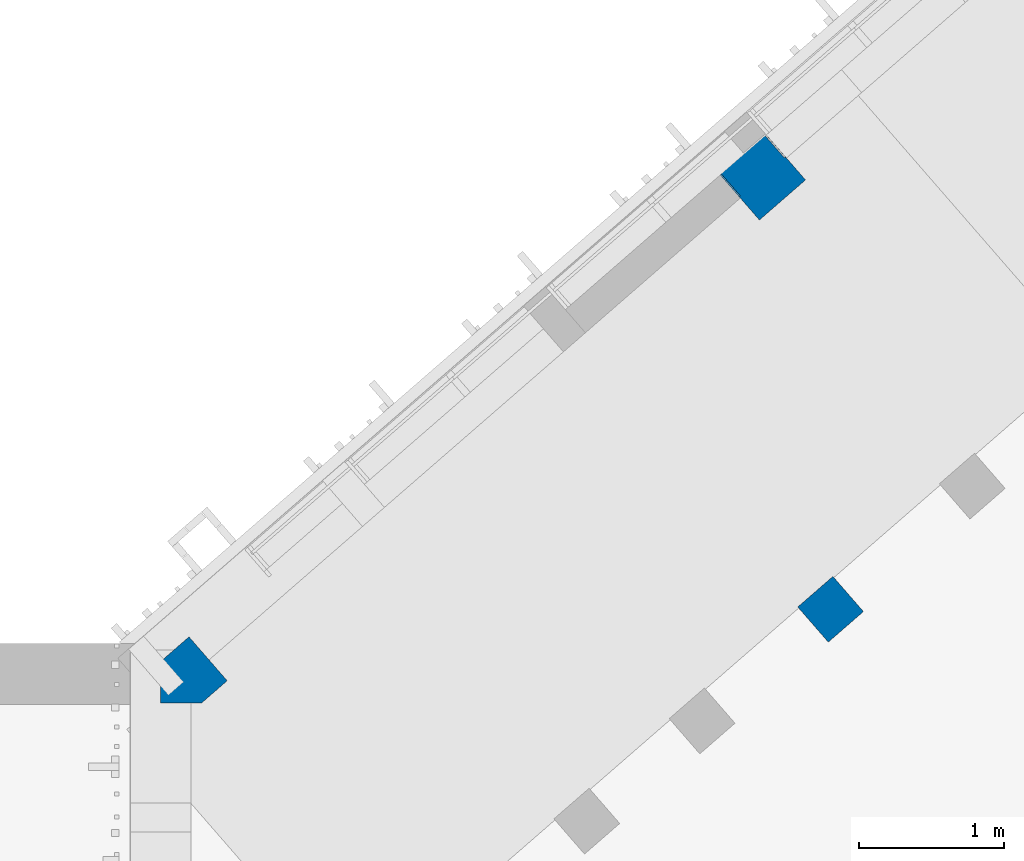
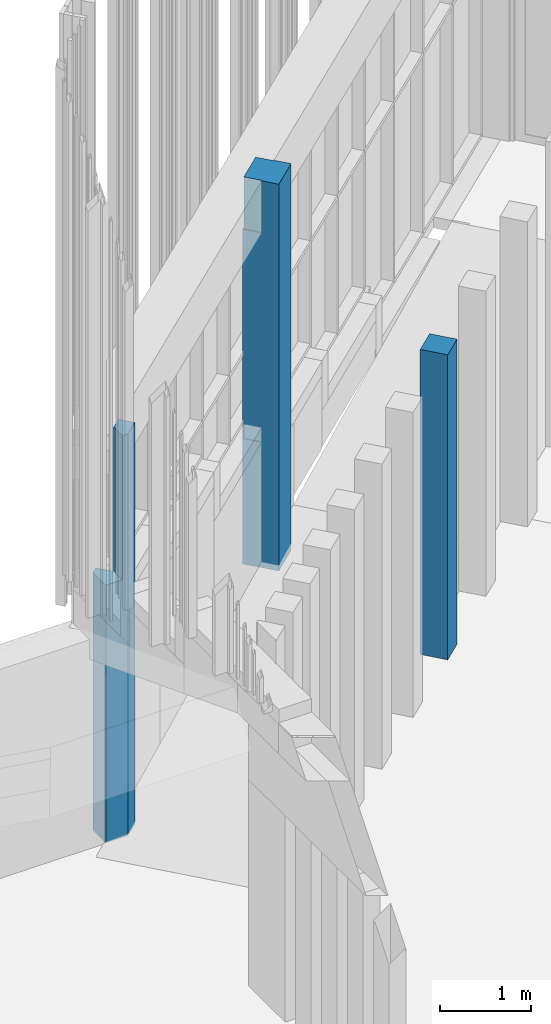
# One storey, part 75 of 390: 3 columns.
"""IFC2X3 building model written with IfcOpenShell, lengths in millimetres."""

from ifc_helpers import new_model, entity, si_unit, converted_unit, derived_unit, money_unit, direction, frame, origin_with_axes, place, context, subcontext, project, spatial, faceted_brep, material, material_list, type_object, element, save


model = new_model("IFC2X3")

# Units and contexts
model_context = context("Model", 3, precision=1e-05, world=origin_with_axes(), true_north=direction((0.0, 1.0)))
body_context = subcontext(model_context, "Body", "Model", "MODEL_VIEW")
ifc_project = project(units=[si_unit("LENGTHUNIT", "METRE", prefix="MILLI"), si_unit("AREAUNIT", "SQUARE_METRE"), si_unit("VOLUMEUNIT", "CUBIC_METRE"), converted_unit("PLANEANGLEUNIT", "DEGREE", entity("IfcPlaneAngleMeasure", 0.0174532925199), si_unit("PLANEANGLEUNIT", "RADIAN"), dimensions=[0, 0, 0, 0, 0, 0, 0]), si_unit("SOLIDANGLEUNIT", "STERADIAN"), money_unit("EUR"), converted_unit("TIMEUNIT", "Year", entity("IfcTimeMeasure", 31556926.0), si_unit("TIMEUNIT", "SECOND"), dimensions=[0, 0, 1, 0, 0, 0, 0]), si_unit("MASSUNIT", "GRAM", prefix="KILO"), si_unit("THERMODYNAMICTEMPERATUREUNIT", "DEGREE_CELSIUS"), si_unit("LUMINOUSINTENSITYUNIT", "LUMEN"), si_unit("ENERGYUNIT", "JOULE", prefix="MEGA"), derived_unit("THERMALCONDUCTANCEUNIT", [(si_unit("POWERUNIT", "WATT"), 1), (si_unit("LENGTHUNIT", "METRE"), -1), (si_unit("THERMODYNAMICTEMPERATUREUNIT", "KELVIN"), -1)]), derived_unit("SPECIFICHEATCAPACITYUNIT", [(si_unit("ENERGYUNIT", "JOULE"), 1), (si_unit("MASSUNIT", "GRAM", prefix="KILO"), -1), (si_unit("THERMODYNAMICTEMPERATUREUNIT", "KELVIN"), -1)]), derived_unit("MASSDENSITYUNIT", [(si_unit("MASSUNIT", "GRAM", prefix="KILO"), 1), (si_unit("VOLUMEUNIT", "CUBIC_METRE"), -1)])], contexts=[model_context])

# Site, building, storey
site_placement = place(None, origin_with_axes())
site = spatial("IfcSite", under=ifc_project, at=site_placement, Name="Site", CompositionType="ELEMENT")
building_placement = place(site_placement, origin_with_axes())
building = spatial("IfcBuilding", under=site, at=building_placement, Name="Building", CompositionType="ELEMENT")
storey_placement = place(building_placement, origin_with_axes())
storey = spatial("IfcBuildingStorey", under=building, at=storey_placement, Name="1 korrus", CompositionType="ELEMENT", Elevation=0.0)

# Columns
ifc_material_1 = material(Name="Betoon - Konstuktsioon")
ifc_material_2 = material(Name="Krohv - Lubjakivi")
ifc_material_list_1 = material_list([ifc_material_1, ifc_material_2])
column_type_1 = type_object("IfcColumnType", Name="Post", PredefinedType="NOTDEFINED")
column_1_placement = place(storey_placement, frame((126836.520855, 79615.3145759, -400.0), z_axis=(0.0, 0.0, 1.0), x_axis=(0.65605902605, -0.754709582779, 0.0)))
element("IfcColumn", 1, at=column_1_placement, inside=storey, type_object=column_type_1, material=ifc_material_list_1, Name="Betoon - Konstuktsioon", ObjectType="Betoon - Konstuktsioon 400 x 400", context=body_context, shape_type="Brep", body=[
    faceted_brep([(-200.0, -200.0, 0.0), (200.0, -200.0, 0.0), (200.0, -200.0, 5200.0), (-200.0, -200.0, 5200.0), (-200.0, 200.0, 0.0), (200.0, 200.0, 0.0), (200.0, 200.0, 5200.0), (-200.0, 200.0, 5200.0)], [[[0, 1, 2, 3]], [[0, 4, 5, 1]], [[1, 5, 6, 2]], [[3, 2, 6, 7]], [[4, 0, 3, 7]], [[5, 4, 7, 6]]]),
    faceted_brep([(-1.60220636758e-05, -210.0, 5200.0), (-1.60220565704e-05, -210.0, 4500.0), (-210.0, -210.0, 4500.0), (-210.0, -210.0, 0.0), (210.0, -210.0, 0.0), (210.0, -210.0, 5200.0), (-4.39943192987e-06, -210.0, 1685.0), (-200.000004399, -210.0, 1685.0), (-200.000004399, -210.0, 1885.0), (-4.39943192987e-06, -210.0, 1885.0), (-1.60531641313e-05, -200.0, 5200.0), (-1.60531641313e-05, -200.0, 4500.0), (-200.000016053, -200.0, 4500.0), (-200.000017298, 200.0, 4500.0), (-1.72976157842e-05, 200.0, 4500.0), (-1.73287304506e-05, 210.0, 4500.0), (-210.0, 210.0, 4500.0), (-210.0, 210.0, 0.0), (210.0, 210.0, 0.0), (200.0, 200.0, 0.0), (-200.0, 200.0, 0.0), (-200.0, -200.0, 0.0), (200.0, -200.0, 0.0), (210.0, 210.0, 5200.0), (-1.73287304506e-05, 210.0, 5200.0), (-1.72976157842e-05, 200.0, 5200.0), (200.0, 200.0, 5200.0), (200.0, -200.0, 5200.0), (-4.45047732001e-06, -200.0, 1685.0), (-200.00000445, -200.0, 1685.0), (-200.00000445, -200.0, 1885.0), (-4.45047732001e-06, -200.0, 1885.0), (-199.999978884, 200.0, 1225.0), (-199.999978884, 200.0, 1885.0), (2.11163566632e-05, 200.0, 1885.0), (2.11163566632e-05, 200.0, 1225.0), (-199.999978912, 209.154201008, 1885.0), (-199.999978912, 209.154201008, 1225.0), (2.1087871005e-05, 209.15420163, 1885.0), (2.1087871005e-05, 209.15420163, 1225.0)], [[[0, 1, 2, 3, 4, 5], [6, 7, 8, 9]], [[1, 0, 10, 11]], [[12, 13, 14, 15, 16, 2, 1, 11]], [[3, 2, 16, 17]], [[18, 4, 3, 17], [19, 20, 21, 22]], [[23, 5, 4, 18]], [[23, 24, 25, 26, 27, 10, 0, 5]], [[6, 28, 29, 7]], [[7, 29, 30, 8]], [[8, 30, 31, 9]], [[9, 31, 28, 6]], [[21, 29, 28, 31, 30, 12, 11, 10, 27, 22]], [[12, 30, 29, 21, 20, 32, 33, 13]], [[25, 14, 13, 33, 34, 35, 32, 20, 19, 26]], [[14, 25, 24, 15]], [[16, 15, 24, 23, 18, 17]], [[27, 26, 19, 22]], [[36, 33, 32, 37]], [[38, 34, 33, 36]], [[39, 35, 34, 38]], [[37, 32, 35, 39]], [[36, 37, 39, 38]]]),
])
ifc_material_3 = material(Name="GENEERILINE - KONSTRUKTRIOON")
column_2_placement = place(storey_placement, frame((122895.360805, 76454.3190185, 4800.0), z_axis=(0.0, 0.0, 1.0), x_axis=(1.0, 0.0, 0.0)))
element("IfcColumn", 2, at=column_2_placement, inside=storey, type_object=column_type_1, material=ifc_material_3, Name="GENEERILINE - KONSTRUKTRIOON", ObjectType="GENEERILINE - KONSTRUKTRIOON 5400", context=body_context, shape_type="Brep", body=[
    faceted_brep([(14.6391896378, -265.527051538, -3.31680372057e-06), (137.772385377, -158.489000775, -3.31680372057e-06), (137.77239488, -158.489011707, -2590.0), (-37.4885248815, -310.841004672, -2590.0), (-37.4885248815, -310.841004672, -2390.0), (14.6391896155, -265.527075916, -2390.0), (14.639190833, -265.527074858, -1937.61066747), (14.6391896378, -454.319008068, -3.31680372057e-06), (87.0670010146, -454.319008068, 0.0), (262.423610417, -301.883833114, 0.0), (262.423610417, -301.883833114, -5400.0), (0.0, 0.0, -5400.0), (-5.8902571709e-07, 6.7760197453e-07, -2590.0), (-175.260920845, -152.351992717, -2590.0), (-175.260920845, -152.351992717, -2390.0), (-123.133207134, -107.038064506, -2390.0), (-123.133207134, -107.038064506, -1937.61066899), (14.6391898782, -454.319008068, -1937.61066747), (-195.360809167, -454.319008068, -1937.61066747), (-195.360808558, -454.319008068, -5400.0), (87.0670010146, -454.319008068, -5400.0), (-195.36080856, -169.824560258, -5400.0), (-195.36080856, -169.824561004, -1937.61066747), (-195.360809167, -434.827161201, -1937.61066747)], [[[0, 1, 2, 3, 4, 5, 6]], [[1, 0, 7, 8, 9]], [[2, 1, 9, 10, 11, 12]], [[13, 3, 2, 12]], [[14, 4, 3, 13]], [[15, 5, 4, 14]], [[16, 6, 5, 15]], [[6, 17, 7, 0]], [[8, 7, 17, 18, 19, 20]], [[9, 8, 20, 10]], [[19, 21, 11, 10, 20]], [[22, 16, 15, 14, 13, 12, 11, 21]], [[17, 6, 16, 22, 23, 18]], [[19, 18, 23, 22, 21]]]),
])
ifc_material_list_2 = material_list([ifc_material_3, ifc_material_2])
column_type_2 = type_object("IfcColumnType", Name="Post (C-profiiliga karkass; puitlaastplaat 12mm; mineraalkrohv 10mm)", PredefinedType="NOTDEFINED")
column_3_placement = place(storey_placement, frame((127305.051446, 76643.818981, 0.0), z_axis=(0.0, 0.0, 1.0), x_axis=(0.65605902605, -0.754709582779, 0.0)))
element("IfcColumn", 3, at=column_3_placement, inside=storey, type_object=column_type_2, material=ifc_material_list_2, Name="GENEERILINE - KONSTRUKTRIOON", ObjectType="GENEERILINE - KONSTRUKTRIOON 300 x 300", context=body_context, shape_type="Brep", body=[
    faceted_brep([(-150.0, -150.0, 0.0), (150.0, -150.0, 0.0), (150.0, -150.0, 4100.0), (-150.0, -150.0, 4100.0), (-150.0, 150.0, 0.0), (150.0, 150.0, 0.0), (150.0, 150.0, 4100.0), (-150.0, 150.0, 4100.0)], [[[0, 1, 2, 3]], [[0, 4, 5, 1]], [[1, 5, 6, 2]], [[3, 2, 6, 7]], [[4, 0, 3, 7]], [[5, 4, 7, 6]]]),
    faceted_brep([(-160.0, -160.0, 0.0), (160.0, -160.0, 0.0), (160.0, -160.0, 4100.0), (-160.0, -160.0, 4100.0), (-160.0, 160.0, 0.0), (160.0, 160.0, 0.0), (-150.0, -150.0, 0.0), (150.0, -150.0, 0.0), (150.0, 150.0, 0.0), (-150.0, 150.0, 0.0), (160.0, 160.0, 4100.0), (-160.0, 160.0, 4100.0), (-150.0, -150.0, 4100.0), (-150.0, 150.0, 4100.0), (150.0, 150.0, 4100.0), (150.0, -150.0, 4100.0)], [[[0, 1, 2, 3]], [[0, 4, 5, 1], [6, 7, 8, 9]], [[1, 5, 10, 2]], [[3, 2, 10, 11], [12, 13, 14, 15]], [[4, 0, 3, 11]], [[5, 4, 11, 10]], [[7, 6, 12, 15]], [[8, 7, 15, 14]], [[9, 8, 14, 13]], [[6, 9, 13, 12]]]),
])

save(model, "model.ifc")
